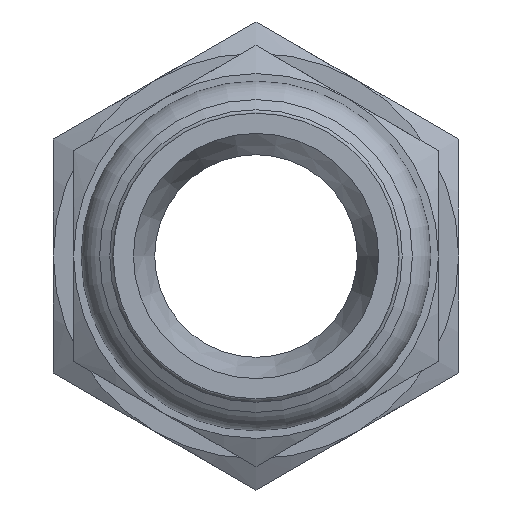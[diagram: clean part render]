
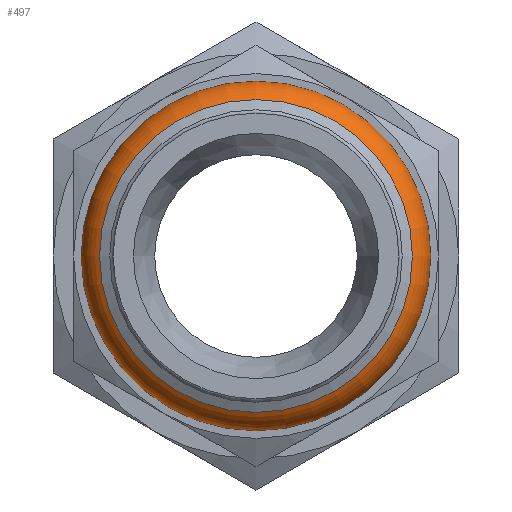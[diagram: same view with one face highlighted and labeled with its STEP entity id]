
A CAD part, left-side view. The second image highlights one B-rep face of the part: STEP entity #497.
In plain terms, the highlighted toroidal (fillet/blend) face has major radius 10.2 mm and minor radius 2.75 mm.
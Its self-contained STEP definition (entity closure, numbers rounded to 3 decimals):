
#199=CARTESIAN_POINT('',(-26.852,10.94,0.0));
#200=VERTEX_POINT('',#199);
#201=CARTESIAN_POINT('',(-26.852,0.,0.0));
#202=DIRECTION('',(1.0,0.0,0.0));
#203=DIRECTION('',(0.0,-1.0,0.0));
#204=AXIS2_PLACEMENT_3D('',#201,#202,#203);
#205=CIRCLE('',#204,10.94);
#206=EDGE_CURVE('',#200,#200,#205,.T.);
#343=CARTESIAN_POINT('',(-31.882,11.575,0.0));
#344=VERTEX_POINT('',#343);
#345=CARTESIAN_POINT('',(-31.882,0.,0.0));
#346=DIRECTION('',(1.0,0.0,0.0));
#347=DIRECTION('',(0.0,1.0,0.0));
#348=AXIS2_PLACEMENT_3D('',#345,#346,#347);
#349=CIRCLE('',#348,11.575);
#350=EDGE_CURVE('',#344,#344,#349,.T.);
#486=CARTESIAN_POINT('',(-29.5,0.,0.0));
#487=DIRECTION('',(1.0,0.,0.0));
#488=DIRECTION('',(0.0,0.0,-1.0));
#489=AXIS2_PLACEMENT_3D('',#486,#487,#488);
#490=TOROIDAL_SURFACE('',#489,10.2,2.75);
#491=ORIENTED_EDGE('',*,*,#350,.T.);
#492=EDGE_LOOP('',(#491));
#493=FACE_OUTER_BOUND('',#492,.T.);
#494=ORIENTED_EDGE('',*,*,#206,.F.);
#495=EDGE_LOOP('',(#494));
#496=FACE_BOUND('',#495,.T.);
#497=ADVANCED_FACE('',(#493,#496),#490,.T.);
